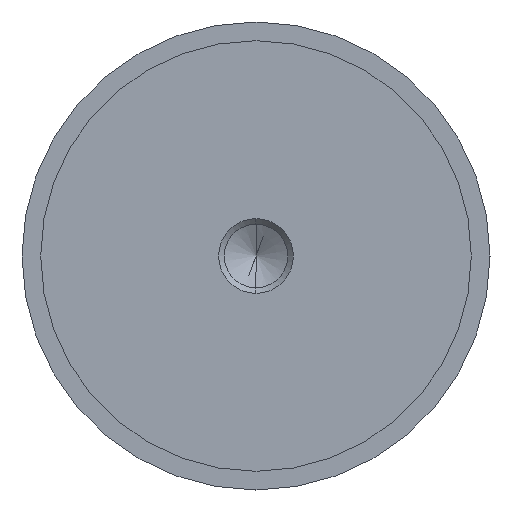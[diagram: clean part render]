
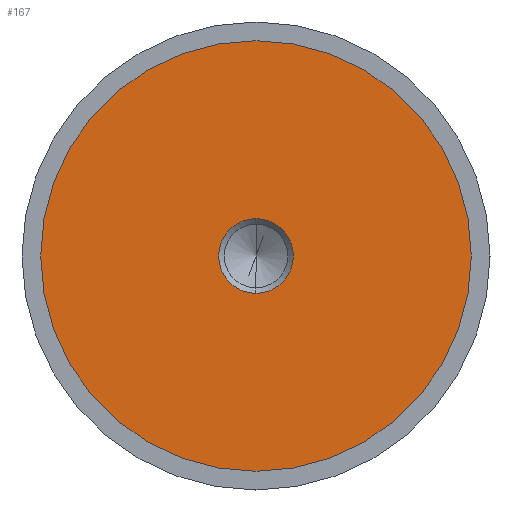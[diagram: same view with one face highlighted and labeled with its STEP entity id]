
A CAD part, left-side view. The second image highlights one B-rep face of the part: STEP entity #167.
In plain terms, the highlighted planar face has unit normal (-1, 0, 0).
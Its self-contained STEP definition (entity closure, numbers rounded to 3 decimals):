
#8 = AXIS2_PLACEMENT_3D ( 'NONE', #197, #63, #382 ) ;
#37 = VERTEX_POINT ( 'NONE', #257 ) ;
#51 = EDGE_CURVE ( 'NONE', #506, #564, #664, .T. ) ;
#63 = DIRECTION ( 'NONE',  ( 1., 0., 0. ) ) ;
#79 = DIRECTION ( 'NONE',  ( 0., 0., -1. ) ) ;
#122 = ORIENTED_EDGE ( 'NONE', *, *, #724, .T. ) ;
#130 = VERTEX_POINT ( 'NONE', #311 ) ;
#139 = CIRCLE ( 'NONE', #581, 5.99 ) ;
#141 = EDGE_LOOP ( 'NONE', ( #501, #122 ) ) ;
#146 = CIRCLE ( 'NONE', #645, 34.5 ) ;
#167 = ADVANCED_FACE ( 'NONE', ( #603, #448 ), #690, .F. ) ;
#173 = CARTESIAN_POINT ( 'NONE',  ( -24.99, 0., 0. ) ) ;
#197 = CARTESIAN_POINT ( 'NONE',  ( -24.99, 34.5, 0. ) ) ;
#232 = ORIENTED_EDGE ( 'NONE', *, *, #51, .T. ) ;
#237 = CARTESIAN_POINT ( 'NONE',  ( -24.99, 0., 0. ) ) ;
#254 = DIRECTION ( 'NONE',  ( 0., 0., -1. ) ) ;
#257 = CARTESIAN_POINT ( 'NONE',  ( -24.99, 0., 34.5 ) ) ;
#309 = EDGE_CURVE ( 'NONE', #37, #130, #390, .T. ) ;
#311 = CARTESIAN_POINT ( 'NONE',  ( -24.99, 0., -34.5 ) ) ;
#335 = EDGE_CURVE ( 'NONE', #564, #506, #139, .T. ) ;
#345 = ORIENTED_EDGE ( 'NONE', *, *, #335, .T. ) ;
#363 = DIRECTION ( 'NONE',  ( 0., 0., 1. ) ) ;
#382 = DIRECTION ( 'NONE',  ( 0., 0., -1. ) ) ;
#390 = CIRCLE ( 'NONE', #475, 34.5 ) ;
#448 = FACE_OUTER_BOUND ( 'NONE', #141, .T. ) ;
#451 = AXIS2_PLACEMENT_3D ( 'NONE', #599, #559, #79 ) ;
#475 = AXIS2_PLACEMENT_3D ( 'NONE', #237, #602, #491 ) ;
#491 = DIRECTION ( 'NONE',  ( 0., 0., 1. ) ) ;
#501 = ORIENTED_EDGE ( 'NONE', *, *, #309, .T. ) ;
#506 = VERTEX_POINT ( 'NONE', #674 ) ;
#534 = DIRECTION ( 'NONE',  ( -1., 0., 0. ) ) ;
#559 = DIRECTION ( 'NONE',  ( 1., 0., 0. ) ) ;
#564 = VERTEX_POINT ( 'NONE', #619 ) ;
#581 = AXIS2_PLACEMENT_3D ( 'NONE', #712, #593, #254 ) ;
#593 = DIRECTION ( 'NONE',  ( 1., 0., 0. ) ) ;
#599 = CARTESIAN_POINT ( 'NONE',  ( -24.99, 0., 0. ) ) ;
#602 = DIRECTION ( 'NONE',  ( -1., 0., 0. ) ) ;
#603 = FACE_BOUND ( 'NONE', #692, .T. ) ;
#619 = CARTESIAN_POINT ( 'NONE',  ( -24.99, 0., -5.99 ) ) ;
#645 = AXIS2_PLACEMENT_3D ( 'NONE', #173, #534, #363 ) ;
#664 = CIRCLE ( 'NONE', #451, 5.99 ) ;
#674 = CARTESIAN_POINT ( 'NONE',  ( -24.99, 0., 5.99 ) ) ;
#690 = PLANE ( 'NONE',  #8 ) ;
#692 = EDGE_LOOP ( 'NONE', ( #232, #345 ) ) ;
#712 = CARTESIAN_POINT ( 'NONE',  ( -24.99, 0., 0. ) ) ;
#724 = EDGE_CURVE ( 'NONE', #130, #37, #146, .T. ) ;
